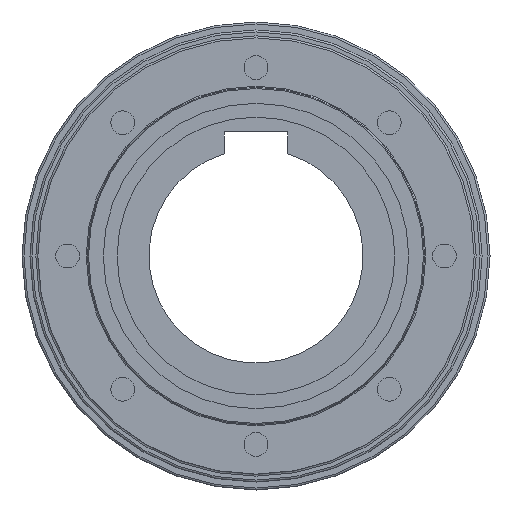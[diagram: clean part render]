
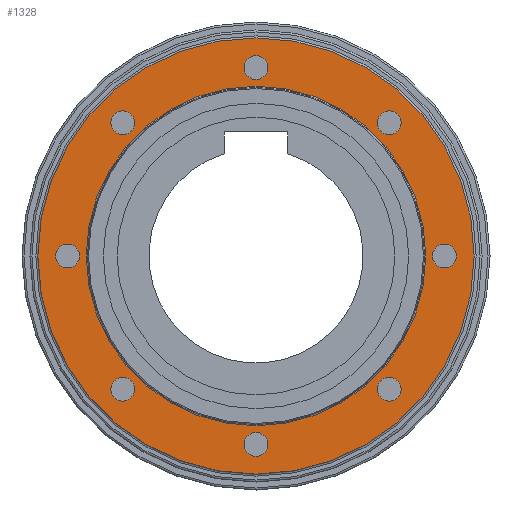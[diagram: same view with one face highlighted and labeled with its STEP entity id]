
A CAD part, left-side view. The second image highlights one B-rep face of the part: STEP entity #1328.
In plain terms, the highlighted planar face has unit normal (-1, 0, 0).
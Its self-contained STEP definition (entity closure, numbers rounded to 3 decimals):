
#22=FACE_BOUND('',#223,.T.);
#23=FACE_BOUND('',#224,.T.);
#24=FACE_BOUND('',#225,.T.);
#25=FACE_BOUND('',#226,.T.);
#26=FACE_BOUND('',#227,.T.);
#27=FACE_BOUND('',#228,.T.);
#28=FACE_BOUND('',#229,.T.);
#29=FACE_BOUND('',#230,.T.);
#30=FACE_BOUND('',#231,.T.);
#65=PLANE('',#1548);
#140=FACE_OUTER_BOUND('',#222,.T.);
#222=EDGE_LOOP('',(#1128,#1129));
#223=EDGE_LOOP('',(#1130,#1131));
#224=EDGE_LOOP('',(#1132,#1133));
#225=EDGE_LOOP('',(#1134,#1135));
#226=EDGE_LOOP('',(#1136,#1137));
#227=EDGE_LOOP('',(#1138,#1139));
#228=EDGE_LOOP('',(#1140,#1141));
#229=EDGE_LOOP('',(#1142,#1143));
#230=EDGE_LOOP('',(#1144,#1145));
#231=EDGE_LOOP('',(#1146,#1147));
#290=CIRCLE('',#1407,3.);
#293=CIRCLE('',#1410,3.);
#294=CIRCLE('',#1412,3.);
#297=CIRCLE('',#1415,3.);
#298=CIRCLE('',#1417,3.);
#301=CIRCLE('',#1420,3.);
#302=CIRCLE('',#1422,3.);
#305=CIRCLE('',#1425,3.);
#306=CIRCLE('',#1427,3.);
#309=CIRCLE('',#1430,3.);
#310=CIRCLE('',#1432,3.);
#313=CIRCLE('',#1435,3.);
#314=CIRCLE('',#1437,3.);
#317=CIRCLE('',#1440,3.);
#318=CIRCLE('',#1442,3.);
#321=CIRCLE('',#1445,3.);
#366=CIRCLE('',#1503,42.8);
#367=CIRCLE('',#1504,42.8);
#369=CIRCLE('',#1507,55.);
#370=CIRCLE('',#1508,55.);
#556=VERTEX_POINT('',#2159);
#557=VERTEX_POINT('',#2160);
#560=VERTEX_POINT('',#2169);
#561=VERTEX_POINT('',#2170);
#564=VERTEX_POINT('',#2179);
#565=VERTEX_POINT('',#2180);
#568=VERTEX_POINT('',#2189);
#569=VERTEX_POINT('',#2190);
#572=VERTEX_POINT('',#2199);
#573=VERTEX_POINT('',#2200);
#576=VERTEX_POINT('',#2209);
#577=VERTEX_POINT('',#2210);
#580=VERTEX_POINT('',#2219);
#581=VERTEX_POINT('',#2220);
#584=VERTEX_POINT('',#2229);
#585=VERTEX_POINT('',#2230);
#629=VERTEX_POINT('',#2345);
#630=VERTEX_POINT('',#2347);
#633=VERTEX_POINT('',#2354);
#634=VERTEX_POINT('',#2356);
#709=EDGE_CURVE('',#556,#557,#290,.F.);
#713=EDGE_CURVE('',#557,#556,#293,.F.);
#714=EDGE_CURVE('',#560,#561,#294,.F.);
#718=EDGE_CURVE('',#561,#560,#297,.F.);
#719=EDGE_CURVE('',#564,#565,#298,.F.);
#723=EDGE_CURVE('',#565,#564,#301,.F.);
#724=EDGE_CURVE('',#568,#569,#302,.F.);
#728=EDGE_CURVE('',#569,#568,#305,.F.);
#729=EDGE_CURVE('',#572,#573,#306,.F.);
#733=EDGE_CURVE('',#573,#572,#309,.F.);
#734=EDGE_CURVE('',#576,#577,#310,.F.);
#738=EDGE_CURVE('',#577,#576,#313,.F.);
#739=EDGE_CURVE('',#580,#581,#314,.F.);
#743=EDGE_CURVE('',#581,#580,#317,.F.);
#744=EDGE_CURVE('',#584,#585,#318,.F.);
#748=EDGE_CURVE('',#585,#584,#321,.F.);
#803=EDGE_CURVE('',#629,#630,#366,.T.);
#804=EDGE_CURVE('',#630,#629,#367,.T.);
#807=EDGE_CURVE('',#634,#633,#369,.F.);
#808=EDGE_CURVE('',#633,#634,#370,.F.);
#1128=ORIENTED_EDGE('',*,*,#807,.T.);
#1129=ORIENTED_EDGE('',*,*,#808,.T.);
#1130=ORIENTED_EDGE('',*,*,#709,.F.);
#1131=ORIENTED_EDGE('',*,*,#713,.F.);
#1132=ORIENTED_EDGE('',*,*,#714,.F.);
#1133=ORIENTED_EDGE('',*,*,#718,.F.);
#1134=ORIENTED_EDGE('',*,*,#719,.F.);
#1135=ORIENTED_EDGE('',*,*,#723,.F.);
#1136=ORIENTED_EDGE('',*,*,#724,.F.);
#1137=ORIENTED_EDGE('',*,*,#728,.F.);
#1138=ORIENTED_EDGE('',*,*,#729,.F.);
#1139=ORIENTED_EDGE('',*,*,#733,.F.);
#1140=ORIENTED_EDGE('',*,*,#734,.F.);
#1141=ORIENTED_EDGE('',*,*,#738,.F.);
#1142=ORIENTED_EDGE('',*,*,#739,.F.);
#1143=ORIENTED_EDGE('',*,*,#743,.F.);
#1144=ORIENTED_EDGE('',*,*,#744,.F.);
#1145=ORIENTED_EDGE('',*,*,#748,.F.);
#1146=ORIENTED_EDGE('',*,*,#804,.F.);
#1147=ORIENTED_EDGE('',*,*,#803,.F.);
#1328=ADVANCED_FACE('',(#140,#22,#23,#24,#25,#26,#27,#28,#29,#30),#65,.T.);
#1407=AXIS2_PLACEMENT_3D('',#2161,#1652,#1653);
#1410=AXIS2_PLACEMENT_3D('',#2167,#1659,#1660);
#1412=AXIS2_PLACEMENT_3D('',#2171,#1663,#1664);
#1415=AXIS2_PLACEMENT_3D('',#2177,#1670,#1671);
#1417=AXIS2_PLACEMENT_3D('',#2181,#1674,#1675);
#1420=AXIS2_PLACEMENT_3D('',#2187,#1681,#1682);
#1422=AXIS2_PLACEMENT_3D('',#2191,#1685,#1686);
#1425=AXIS2_PLACEMENT_3D('',#2197,#1692,#1693);
#1427=AXIS2_PLACEMENT_3D('',#2201,#1696,#1697);
#1430=AXIS2_PLACEMENT_3D('',#2207,#1703,#1704);
#1432=AXIS2_PLACEMENT_3D('',#2211,#1707,#1708);
#1435=AXIS2_PLACEMENT_3D('',#2217,#1714,#1715);
#1437=AXIS2_PLACEMENT_3D('',#2221,#1718,#1719);
#1440=AXIS2_PLACEMENT_3D('',#2227,#1725,#1726);
#1442=AXIS2_PLACEMENT_3D('',#2231,#1729,#1730);
#1445=AXIS2_PLACEMENT_3D('',#2237,#1736,#1737);
#1503=AXIS2_PLACEMENT_3D('',#2348,#1862,#1863);
#1504=AXIS2_PLACEMENT_3D('',#2349,#1864,#1865);
#1507=AXIS2_PLACEMENT_3D('',#2357,#1871,#1872);
#1508=AXIS2_PLACEMENT_3D('',#2358,#1873,#1874);
#1548=AXIS2_PLACEMENT_3D('',#2477,#1967,#1968);
#1652=DIRECTION('center_axis',(1.,0.,0.));
#1653=DIRECTION('ref_axis',(0.,1.,0.));
#1659=DIRECTION('center_axis',(1.,0.,0.));
#1660=DIRECTION('ref_axis',(0.,1.,0.));
#1663=DIRECTION('center_axis',(1.,0.,0.));
#1664=DIRECTION('ref_axis',(0.,1.,0.));
#1670=DIRECTION('center_axis',(1.,0.,0.));
#1671=DIRECTION('ref_axis',(0.,1.,0.));
#1674=DIRECTION('center_axis',(1.,0.,0.));
#1675=DIRECTION('ref_axis',(0.,1.,0.));
#1681=DIRECTION('center_axis',(1.,0.,0.));
#1682=DIRECTION('ref_axis',(0.,1.,0.));
#1685=DIRECTION('center_axis',(1.,0.,0.));
#1686=DIRECTION('ref_axis',(0.,1.,0.));
#1692=DIRECTION('center_axis',(1.,0.,0.));
#1693=DIRECTION('ref_axis',(0.,1.,0.));
#1696=DIRECTION('center_axis',(1.,0.,0.));
#1697=DIRECTION('ref_axis',(0.,1.,0.));
#1703=DIRECTION('center_axis',(1.,0.,0.));
#1704=DIRECTION('ref_axis',(0.,1.,0.));
#1707=DIRECTION('center_axis',(1.,0.,0.));
#1708=DIRECTION('ref_axis',(0.,1.,0.));
#1714=DIRECTION('center_axis',(1.,0.,0.));
#1715=DIRECTION('ref_axis',(0.,1.,0.));
#1718=DIRECTION('center_axis',(1.,0.,0.));
#1719=DIRECTION('ref_axis',(0.,1.,0.));
#1725=DIRECTION('center_axis',(1.,0.,0.));
#1726=DIRECTION('ref_axis',(0.,1.,0.));
#1729=DIRECTION('center_axis',(1.,0.,0.));
#1730=DIRECTION('ref_axis',(0.,1.,0.));
#1736=DIRECTION('center_axis',(1.,0.,0.));
#1737=DIRECTION('ref_axis',(0.,1.,0.));
#1862=DIRECTION('center_axis',(-1.,0.,0.));
#1863=DIRECTION('ref_axis',(0.,1.,0.));
#1864=DIRECTION('center_axis',(-1.,0.,0.));
#1865=DIRECTION('ref_axis',(0.,1.,0.));
#1871=DIRECTION('center_axis',(1.,0.,0.));
#1872=DIRECTION('ref_axis',(0.,1.,0.));
#1873=DIRECTION('center_axis',(1.,0.,0.));
#1874=DIRECTION('ref_axis',(0.,1.,0.));
#1967=DIRECTION('center_axis',(-1.,0.,0.));
#1968=DIRECTION('ref_axis',(0.,1.,0.));
#2159=CARTESIAN_POINT('',(9.,-30.588,-33.588));
#2160=CARTESIAN_POINT('',(9.,-36.588,-33.588));
#2161=CARTESIAN_POINT('Origin',(9.,-33.588,-33.588));
#2167=CARTESIAN_POINT('Origin',(9.,-33.588,-33.588));
#2169=CARTESIAN_POINT('',(9.,-44.5,0.));
#2170=CARTESIAN_POINT('',(9.,-50.5,0.));
#2171=CARTESIAN_POINT('Origin',(9.,-47.5,0.));
#2177=CARTESIAN_POINT('Origin',(9.,-47.5,0.));
#2179=CARTESIAN_POINT('',(9.,-30.588,33.588));
#2180=CARTESIAN_POINT('',(9.,-36.588,33.588));
#2181=CARTESIAN_POINT('Origin',(9.,-33.588,33.588));
#2187=CARTESIAN_POINT('Origin',(9.,-33.588,33.588));
#2189=CARTESIAN_POINT('',(9.,3.,47.5));
#2190=CARTESIAN_POINT('',(9.,-3.,47.5));
#2191=CARTESIAN_POINT('Origin',(9.,0.,47.5));
#2197=CARTESIAN_POINT('Origin',(9.,0.,47.5));
#2199=CARTESIAN_POINT('',(9.,36.588,33.588));
#2200=CARTESIAN_POINT('',(9.,30.588,33.588));
#2201=CARTESIAN_POINT('Origin',(9.,33.588,33.588));
#2207=CARTESIAN_POINT('Origin',(9.,33.588,33.588));
#2209=CARTESIAN_POINT('',(9.,50.5,0.));
#2210=CARTESIAN_POINT('',(9.,44.5,0.));
#2211=CARTESIAN_POINT('Origin',(9.,47.5,0.));
#2217=CARTESIAN_POINT('Origin',(9.,47.5,0.));
#2219=CARTESIAN_POINT('',(9.,36.588,-33.588));
#2220=CARTESIAN_POINT('',(9.,30.588,-33.588));
#2221=CARTESIAN_POINT('Origin',(9.,33.588,-33.588));
#2227=CARTESIAN_POINT('Origin',(9.,33.588,-33.588));
#2229=CARTESIAN_POINT('',(9.,3.,-47.5));
#2230=CARTESIAN_POINT('',(9.,-3.,-47.5));
#2231=CARTESIAN_POINT('Origin',(9.,0.,-47.5));
#2237=CARTESIAN_POINT('Origin',(9.,0.,-47.5));
#2345=CARTESIAN_POINT('',(9.,-42.8,0.));
#2347=CARTESIAN_POINT('',(9.,42.8,0.));
#2348=CARTESIAN_POINT('Origin',(9.,0.,0.));
#2349=CARTESIAN_POINT('Origin',(9.,0.,0.));
#2354=CARTESIAN_POINT('',(9.,-55.,0.));
#2356=CARTESIAN_POINT('',(9.,55.,0.));
#2357=CARTESIAN_POINT('Origin',(9.,0.,0.));
#2358=CARTESIAN_POINT('Origin',(9.,0.,0.));
#2477=CARTESIAN_POINT('Origin',(9.,0.,32.643));
